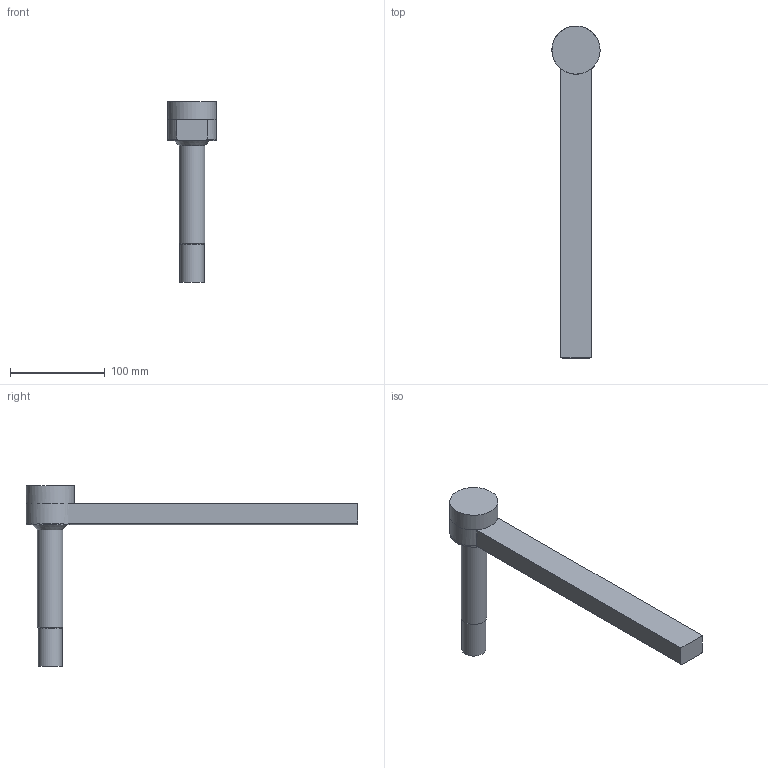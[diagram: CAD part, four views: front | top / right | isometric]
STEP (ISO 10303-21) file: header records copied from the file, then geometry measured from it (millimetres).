
FILE_DESCRIPTION(/* description */ (''),/* implementation_level */ '2;1');
FILE_NAME(/* name */ 'B1093TRUPas.stp',/* time_stamp */ '2019-10-03T16:09:23-04:00',/* author */ (''),/* organization */ (''),/* preprocessor_version */ 'ST-DEVELOPER v16',/* originating_system */ 'SIEMENS PLM Software NX 11.0',/* authorisation */ '');
FILE_SCHEMA (('AUTOMOTIVE_DESIGN { 1 0 10303 214 3 1 1 1 }'));
Length unit declared in the file: inch
Products named in the file (3): B1093TRUPd; B10XX_SubSolid; B1093TRUPas
Assembly tree (2 placements, depth 2):
  B1093TRUPas
    B10XX_SubSolid
    B1093TRUPd
Bounding box: 50.91 x 350.87 x 191.29 mm (x, y, z)
Volume: 482219.2 mm3; surface area: 80594.7 mm2
Topology: 2 solids, 3 shells, 34 faces, 72 edges, 45 vertices
Faces by surface type: plane 13, cylinder 10, cone 6, torus 3, sphere 1, revolution 1
Full cylindrical faces by diameter (mm): 8.731 x2, 25.4 x2, 26.987 x1, 50.927 x1
Entity records: 874 total; most frequent: CARTESIAN_POINT 167, DIRECTION 142, ORIENTED_EDGE 96, AXIS2_PLACEMENT_3D 62, EDGE_LOOP 54, EDGE_CURVE 48, FACE_BOUND 45, VERTEX_POINT 40
